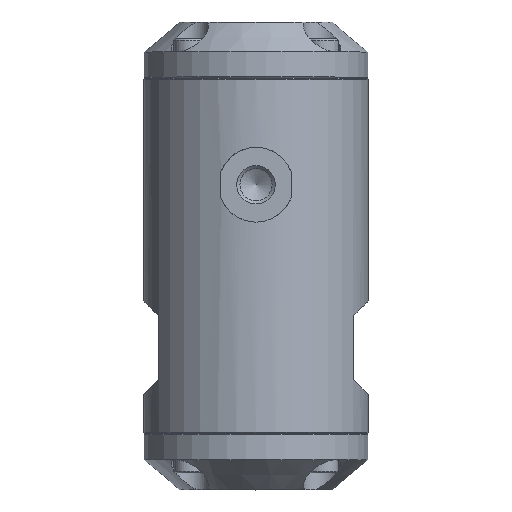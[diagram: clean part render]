
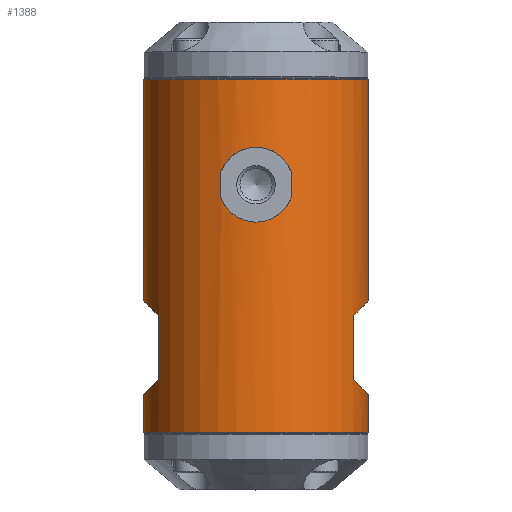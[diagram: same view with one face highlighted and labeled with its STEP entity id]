
A CAD part, top view. The second image highlights one B-rep face of the part: STEP entity #1388.
In plain terms, the highlighted cylindrical face has radius 30 mm (diameter 60 mm), a full revolution.
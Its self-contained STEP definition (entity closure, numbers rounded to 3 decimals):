
#31=ELLIPSE('',#4710,42.426,30.);
#32=ELLIPSE('',#4711,42.426,30.);
#33=ELLIPSE('',#4712,42.426,30.);
#34=ELLIPSE('',#4713,42.426,30.);
#67=B_SPLINE_CURVE_WITH_KNOTS('',3,(#7512,#7513,#7514,#7515,#7516,#7517,
#7518,#7519,#7520,#7521),.UNSPECIFIED.,.F.,.F.,(4,2,2,2,4),(0.,0.25,0.5,
0.75,1.),.UNSPECIFIED.);
#68=B_SPLINE_CURVE_WITH_KNOTS('',3,(#7526,#7527,#7528,#7529,#7530,#7531,
#7532,#7533,#7534,#7535),.UNSPECIFIED.,.F.,.F.,(4,2,2,2,4),(0.,0.25,0.5,
0.75,1.),.UNSPECIFIED.);
#249=LINE('',#7496,#403);
#250=LINE('',#7501,#404);
#251=LINE('',#7504,#405);
#252=LINE('',#7509,#406);
#253=LINE('',#7524,#407);
#254=LINE('',#7537,#408);
#403=VECTOR('',#5889,1.);
#404=VECTOR('',#5892,1.);
#405=VECTOR('',#5895,1.);
#406=VECTOR('',#5898,1.);
#407=VECTOR('',#5901,1.);
#408=VECTOR('',#5902,1.);
#706=CYLINDRICAL_SURFACE('',#4714,30.);
#1033=FACE_BOUND('',#2097,.T.);
#1034=FACE_BOUND('',#2098,.T.);
#1035=FACE_BOUND('',#2099,.T.);
#1036=FACE_BOUND('',#2100,.T.);
#1037=FACE_BOUND('',#2101,.T.);
#1388=ADVANCED_FACE('',(#1033,#1034,#1035,#1036,#1037),#706,.T.);
#2097=EDGE_LOOP('',(#2945));
#2098=EDGE_LOOP('',(#2946));
#2099=EDGE_LOOP('',(#2947,#2948,#2949,#2950));
#2100=EDGE_LOOP('',(#2951,#2952,#2953,#2954));
#2101=EDGE_LOOP('',(#2955,#2956,#2957,#2958));
#2945=ORIENTED_EDGE('',*,*,#3839,.F.);
#2946=ORIENTED_EDGE('',*,*,#3840,.T.);
#2947=ORIENTED_EDGE('',*,*,#3841,.F.);
#2948=ORIENTED_EDGE('',*,*,#3842,.F.);
#2949=ORIENTED_EDGE('',*,*,#3843,.F.);
#2950=ORIENTED_EDGE('',*,*,#3844,.F.);
#2951=ORIENTED_EDGE('',*,*,#3845,.F.);
#2952=ORIENTED_EDGE('',*,*,#3846,.F.);
#2953=ORIENTED_EDGE('',*,*,#3847,.F.);
#2954=ORIENTED_EDGE('',*,*,#3848,.F.);
#2955=ORIENTED_EDGE('',*,*,#3849,.T.);
#2956=ORIENTED_EDGE('',*,*,#3850,.T.);
#2957=ORIENTED_EDGE('',*,*,#3851,.T.);
#2958=ORIENTED_EDGE('',*,*,#3852,.T.);
#3397=VERTEX_POINT('',#7493);
#3398=VERTEX_POINT('',#7495);
#3399=VERTEX_POINT('',#7497);
#3400=VERTEX_POINT('',#7498);
#3401=VERTEX_POINT('',#7500);
#3402=VERTEX_POINT('',#7502);
#3403=VERTEX_POINT('',#7505);
#3404=VERTEX_POINT('',#7506);
#3405=VERTEX_POINT('',#7508);
#3406=VERTEX_POINT('',#7510);
#3407=VERTEX_POINT('',#7522);
#3408=VERTEX_POINT('',#7523);
#3409=VERTEX_POINT('',#7525);
#3410=VERTEX_POINT('',#7536);
#3839=EDGE_CURVE('',#3397,#3397,#4198,.T.);
#3840=EDGE_CURVE('',#3398,#3398,#4199,.T.);
#3841=EDGE_CURVE('',#3399,#3400,#249,.T.);
#3842=EDGE_CURVE('',#3401,#3399,#31,.T.);
#3843=EDGE_CURVE('',#3402,#3401,#250,.T.);
#3844=EDGE_CURVE('',#3400,#3402,#32,.T.);
#3845=EDGE_CURVE('',#3403,#3404,#251,.T.);
#3846=EDGE_CURVE('',#3405,#3403,#33,.T.);
#3847=EDGE_CURVE('',#3406,#3405,#252,.T.);
#3848=EDGE_CURVE('',#3404,#3406,#34,.T.);
#3849=EDGE_CURVE('',#3407,#3408,#67,.T.);
#3850=EDGE_CURVE('',#3408,#3409,#253,.T.);
#3851=EDGE_CURVE('',#3409,#3410,#68,.T.);
#3852=EDGE_CURVE('',#3410,#3407,#254,.T.);
#4198=CIRCLE('',#4708,30.);
#4199=CIRCLE('',#4709,30.);
#4708=AXIS2_PLACEMENT_3D('',#7492,#5885,#5886);
#4709=AXIS2_PLACEMENT_3D('',#7494,#5887,#5888);
#4710=AXIS2_PLACEMENT_3D('',#7499,#5890,#5891);
#4711=AXIS2_PLACEMENT_3D('',#7503,#5893,#5894);
#4712=AXIS2_PLACEMENT_3D('',#7507,#5896,#5897);
#4713=AXIS2_PLACEMENT_3D('',#7511,#5899,#5900);
#4714=AXIS2_PLACEMENT_3D('',#7538,#5903,#5904);
#5885=DIRECTION('',(0.,-1.,0.));
#5886=DIRECTION('',(0.,0.,1.));
#5887=DIRECTION('',(0.,-1.,0.));
#5888=DIRECTION('',(0.,0.,1.));
#5889=DIRECTION('',(0.,-1.,0.));
#5890=DIRECTION('',(0.707,-0.707,0.));
#5891=DIRECTION('',(0.707,0.707,0.));
#5892=DIRECTION('',(0.,1.,0.));
#5893=DIRECTION('',(0.707,0.707,0.));
#5894=DIRECTION('',(-0.707,0.707,0.));
#5895=DIRECTION('',(0.,-1.,0.));
#5896=DIRECTION('',(-0.707,-0.707,0.));
#5897=DIRECTION('',(-0.707,0.707,0.));
#5898=DIRECTION('',(0.,1.,0.));
#5899=DIRECTION('',(-0.707,0.707,0.));
#5900=DIRECTION('',(0.707,0.707,0.));
#5901=DIRECTION('',(0.,-1.,0.));
#5902=DIRECTION('',(0.,1.,0.));
#5903=DIRECTION('',(0.,1.,0.));
#5904=DIRECTION('',(0.,0.,1.));
#7492=CARTESIAN_POINT('',(0.,-39.7,0.));
#7493=CARTESIAN_POINT('',(0.,-39.7,30.));
#7494=CARTESIAN_POINT('',(0.,54.7,0.));
#7495=CARTESIAN_POINT('',(0.,54.7,30.));
#7496=CARTESIAN_POINT('',(26.,7.5,14.967));
#7497=CARTESIAN_POINT('',(26.,-8.5,14.967));
#7498=CARTESIAN_POINT('',(26.,-25.5,14.967));
#7499=CARTESIAN_POINT('',(0.,-34.5,0.));
#7500=CARTESIAN_POINT('',(26.,-8.5,-14.967));
#7501=CARTESIAN_POINT('',(26.,7.5,-14.967));
#7502=CARTESIAN_POINT('',(26.,-25.5,-14.967));
#7503=CARTESIAN_POINT('',(0.,0.5,0.));
#7504=CARTESIAN_POINT('',(-26.,7.5,-14.967));
#7505=CARTESIAN_POINT('',(-26.,-8.5,-14.967));
#7506=CARTESIAN_POINT('',(-26.,-25.5,-14.967));
#7507=CARTESIAN_POINT('',(0.,-34.5,0.));
#7508=CARTESIAN_POINT('',(-26.,-8.5,14.967));
#7509=CARTESIAN_POINT('',(-26.,7.5,14.967));
#7510=CARTESIAN_POINT('',(-26.,-25.5,14.967));
#7511=CARTESIAN_POINT('',(0.,0.5,0.));
#7512=CARTESIAN_POINT('',(-9.367,30.,28.5));
#7513=CARTESIAN_POINT('',(-8.652,31.916,28.735));
#7514=CARTESIAN_POINT('',(-7.375,33.548,29.128));
#7515=CARTESIAN_POINT('',(-4.073,35.852,29.77));
#7516=CARTESIAN_POINT('',(-2.039,36.498,29.999));
#7517=CARTESIAN_POINT('',(2.02,36.502,30.001));
#7518=CARTESIAN_POINT('',(4.066,35.854,29.77));
#7519=CARTESIAN_POINT('',(7.36,33.561,29.131));
#7520=CARTESIAN_POINT('',(8.652,31.916,28.735));
#7521=CARTESIAN_POINT('',(9.367,30.,28.5));
#7522=CARTESIAN_POINT('',(-9.367,30.,28.5));
#7523=CARTESIAN_POINT('',(9.367,30.,28.5));
#7524=CARTESIAN_POINT('',(9.367,7.5,28.5));
#7525=CARTESIAN_POINT('',(9.367,23.,28.5));
#7526=CARTESIAN_POINT('',(9.367,23.,28.5));
#7527=CARTESIAN_POINT('',(8.652,21.084,28.735));
#7528=CARTESIAN_POINT('',(7.375,19.452,29.128));
#7529=CARTESIAN_POINT('',(4.073,17.148,29.77));
#7530=CARTESIAN_POINT('',(2.039,16.502,29.999));
#7531=CARTESIAN_POINT('',(-2.02,16.498,30.001));
#7532=CARTESIAN_POINT('',(-4.066,17.146,29.77));
#7533=CARTESIAN_POINT('',(-7.36,19.439,29.131));
#7534=CARTESIAN_POINT('',(-8.652,21.084,28.735));
#7535=CARTESIAN_POINT('',(-9.367,23.,28.5));
#7536=CARTESIAN_POINT('',(-9.367,23.,28.5));
#7537=CARTESIAN_POINT('',(-9.367,7.5,28.5));
#7538=CARTESIAN_POINT('',(0.,7.5,0.));
